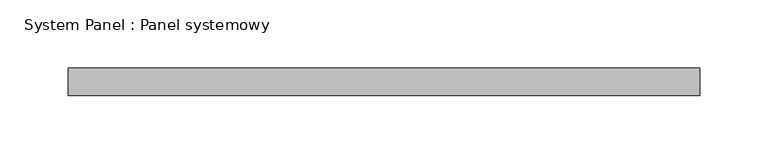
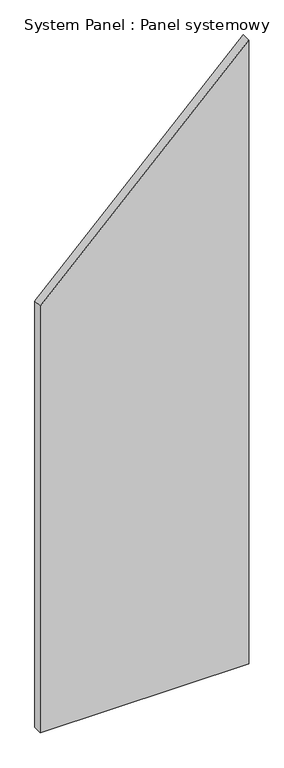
"""IFC4 building model written with IfcOpenShell, lengths in millimetres: plate geometry, System Panel : Panel systemowy."""

import ifcopenshell
import ifcopenshell.guid

model = None  # the IFC model being written
_history = None  # IfcOwnerHistory: only IFC2X3 demands one
_inside = {}  # id of a spatial element -> (the spatial element, [elements in it])
_under = {}  # id of a project, library or spatial element -> (it, [spatial elements below it])
_declared = {}  # id of a project -> (the project, [libraries it declares])
_typed = {}  # id of a type object -> (the type object, [elements of that type])
_made_of = {}  # id of a material, layer set ... -> (it, [elements and type objects made of it])


def new_model(schema):
    """Start an empty IFC model of exactly this schema.

    Asked for "IFC4X3", IfcOpenShell would pick the latest addendum, in which some entities
    have other attributes; the version numbers below select the first issue.
    IFC2X3 requires an IfcOwnerHistory on every rooted entity: one is made here for all.
    """
    global model, _history
    if schema == "IFC4X3":
        model = ifcopenshell.file(schema_version=(4, 3, 0, 0))
    else:
        model = ifcopenshell.file(schema=schema)
    _inside.clear()
    _under.clear()
    _declared.clear()
    _typed.clear()
    _made_of.clear()
    _history = None
    if model.schema == "IFC2X3":
        org = make("IfcOrganization", Name="unknown")
        user = make(
            "IfcPersonAndOrganization",
            ThePerson=make("IfcPerson", FamilyName="unknown"),
            TheOrganization=org,
        )
        app = make(
            "IfcApplication",
            ApplicationDeveloper=org,
            Version="unknown",
            ApplicationFullName="unknown",
            ApplicationIdentifier="unknown",
        )
        _history = make(
            "IfcOwnerHistory",
            OwningUser=user,
            OwningApplication=app,
            ChangeAction="ADDED",
            CreationDate=0,
        )
    return model


def make(cls, **values):
    """One entity of the class cls with the attributes given. An attribute that is None is left unset."""
    return model.create_entity(
        cls, **{name: value for name, value in values.items() if value is not None}
    )


def rooted(cls, **values):
    """An entity with a GlobalId (a new one), such as an element, a storey or a relation."""
    return make(cls, GlobalId=ifcopenshell.guid.new(), OwnerHistory=_history, **values)


def si_unit(unit_type, name, prefix=None):
    """IfcSIUnit, for example si_unit("LENGTHUNIT", "METRE", prefix="MILLI")."""
    return make("IfcSIUnit", UnitType=unit_type, Prefix=prefix, Name=name)


def assignment(units):
    """IfcUnitAssignment: the units of a project."""
    return None if units is None else make("IfcUnitAssignment", Units=units)


def point(xyz):
    """IfcCartesianPoint."""
    return None if xyz is None else make("IfcCartesianPoint", Coordinates=xyz)


def direction(xyz):
    """IfcDirection."""
    return None if xyz is None else make("IfcDirection", DirectionRatios=xyz)


def frame(location, z_axis=None, x_axis=None):
    """IfcAxis2Placement3D, a coordinate frame: its origin and axes. An axis left out is left unset."""
    return make(
        "IfcAxis2Placement3D",
        Location=point(location),
        Axis=direction(z_axis),
        RefDirection=direction(x_axis),
    )


def origin():
    """The frame at (0, 0, 0) with its axes left unset."""
    return frame((0.0, 0.0, 0.0))


def place(relative_to, where):
    """IfcLocalPlacement: puts the frame where relative to a parent placement (None: the world)."""
    return make(
        "IfcLocalPlacement", PlacementRelTo=relative_to, RelativePlacement=where
    )


def context(
    kind, dimensions, precision=None, world=None, true_north=None, identifier=None
):
    """IfcGeometricRepresentationContext, for example the 3D "Model" context."""
    return make(
        "IfcGeometricRepresentationContext",
        ContextIdentifier=identifier,
        ContextType=kind,
        CoordinateSpaceDimension=dimensions,
        Precision=precision,
        WorldCoordinateSystem=world,
        TrueNorth=true_north,
    )


def project(units=None, contexts=None):
    """IfcProject with its units and contexts."""
    return rooted(
        "IfcProject",
        Name="project",
        RepresentationContexts=contexts,
        UnitsInContext=assignment(units),
    )


def spatial(cls, under=None, at=None, **own):
    """A site, building, storey or space (cls), placed at a placement, below another one or the project."""
    s = rooted(cls, ObjectPlacement=at, **own)
    if under is not None:
        _under.setdefault(under.id(), (under, []))[1].append(s)
    return s


def polyline(points):
    """IfcPolyline through the points."""
    return make("IfcPolyline", Points=[point(p) for p in points])


def outline(outer, holes=None, kind="AREA"):
    """IfcArbitraryClosedProfileDef: a profile drawn as a closed curve; with holes, ...WithVoids."""
    if holes is None:
        return make("IfcArbitraryClosedProfileDef", ProfileType=kind, OuterCurve=outer)
    return make(
        "IfcArbitraryProfileDefWithVoids",
        ProfileType=kind,
        OuterCurve=outer,
        InnerCurves=holes,
    )


def extrude(swept, where, along, depth):
    """IfcExtrudedAreaSolid: the profile swept, set in the frame where, extruded along a direction by depth."""
    return make(
        "IfcExtrudedAreaSolid",
        SweptArea=swept,
        Position=where,
        ExtrudedDirection=direction(along),
        Depth=depth,
    )


def shape(context_of_items, identifier, shape_type, items):
    """IfcShapeRepresentation: the items that make up one representation, for example the "Body"."""
    return make(
        "IfcShapeRepresentation",
        ContextOfItems=context_of_items,
        RepresentationIdentifier=identifier,
        RepresentationType=shape_type,
        Items=items,
    )


def source(mapping_origin, context_of_items, identifier, shape_type, items):
    """IfcRepresentationMap: a shape defined once, which mapped items show again and again."""
    return make(
        "IfcRepresentationMap",
        MappingOrigin=mapping_origin,
        MappedRepresentation=shape(context_of_items, identifier, shape_type, items),
    )


def transform(
    local_origin,
    x_axis=None,
    y_axis=None,
    z_axis=None,
    scale=None,
    scale2=None,
    scale3=None,
    uniform=True,
):
    """IfcCartesianTransformationOperator3D, or its non-uniform kind. x_axis, y_axis, z_axis: its Axis1, 2, 3."""
    if uniform:
        return make(
            "IfcCartesianTransformationOperator3D",
            Axis1=direction(x_axis),
            Axis2=direction(y_axis),
            LocalOrigin=point(local_origin),
            Scale=scale,
            Axis3=direction(z_axis),
        )
    return make(
        "IfcCartesianTransformationOperator3DnonUniform",
        Axis1=direction(x_axis),
        Axis2=direction(y_axis),
        LocalOrigin=point(local_origin),
        Scale=scale,
        Axis3=direction(z_axis),
        Scale2=scale2,
        Scale3=scale3,
    )


def mapped(mapping_source, mapping_target):
    """IfcMappedItem: shows the shape of a source again, moved by a transform."""
    return make(
        "IfcMappedItem", MappingSource=mapping_source, MappingTarget=mapping_target
    )


def made_of(thing, what):
    """Note that an element or type object is made of a material, layer set ...; save() writes the relation."""
    if what is not None:
        _made_of.setdefault(what.id(), (what, []))[1].append(thing)
    return thing


def element(
    cls,
    number,
    at=None,
    inside=None,
    cuts=None,
    type_object=None,
    material=None,
    context=None,
    identifier="Body",
    shape_type=None,
    held_by="IfcProductDefinitionShape",
    body=None,
    shapes=None,
    **own,
):
    """One element of the class cls, such as IfcWall. Its Tag is "e" and its number.

    at: its placement. inside: the storey or other place that contains it. cuts: it is an
    opening in that element (IfcRelVoidsElement). A single representation is given by context,
    identifier, shape_type and body (its items); several are given by shapes. held_by: the class
    of the entity that holds the representations. save() writes the other relations.
    """
    e = rooted(cls, Tag="e%d" % number, ObjectPlacement=at, **own)
    if body is not None:
        shapes = [shape(context, identifier, shape_type, body)]
    if shapes is not None:
        e.Representation = make(held_by, Representations=shapes)
    if inside is not None:
        _inside.setdefault(inside.id(), (inside, []))[1].append(e)
    if cuts is not None:
        rooted(
            "IfcRelVoidsElement", RelatingBuildingElement=cuts, RelatedOpeningElement=e
        )
    if type_object is not None:
        _typed.setdefault(type_object.id(), (type_object, []))[1].append(e)
    return made_of(e, material)


def aggregate(whole, parts):
    """IfcRelAggregates: a whole, such as a stair, and the parts it consists of."""
    return rooted("IfcRelAggregates", RelatingObject=whole, RelatedObjects=parts)


def save(model, path):
    """Write the relations noted so far, then the file.

    IfcRelAggregates (storeys below a building ...), IfcRelContainedInSpatialStructure (elements
    in a storey), IfcRelDefinesByType, IfcRelAssociatesMaterial and IfcRelDeclares: one each for
    every whole, place, type object, material and project.
    """
    for whole, parts in _under.values():
        aggregate(whole, parts)
    for where, things in _inside.values():
        rooted(
            "IfcRelContainedInSpatialStructure",
            RelatedElements=things,
            RelatingStructure=where,
        )
    for kind, things in _typed.values():
        rooted("IfcRelDefinesByType", RelatedObjects=things, RelatingType=kind)
    for what, things in _made_of.values():
        rooted("IfcRelAssociatesMaterial", RelatedObjects=things, RelatingMaterial=what)
    for by, libraries in _declared.values():
        rooted("IfcRelDeclares", RelatingContext=by, RelatedDefinitions=libraries)
    model.write(path)


def system_panel_panel_systemowy_e7d91a2d(model_context):
    return source(origin(), model_context, "Body", "SweptSolid", [
        extrude(outline(polyline([(0.0, -231.25), (0.0, 231.25), (1463.2359314, 231.25), (1000.7359313, -231.25), (0.0, -231.25)])), frame((0.0, -10.0, 0.0), z_axis=(0.0, 1.0, 0.0), x_axis=(0.0, 0.0, 1.0)), (0.0, 0.0, 1.0), 20.0),
    ])


if __name__ == "__main__":
    model = new_model("IFC4")
    model_context = context("Model", 3, world=origin())
    ifc_project = project(units=[si_unit("LENGTHUNIT", "METRE", prefix="MILLI")], contexts=[model_context])
    site = spatial("IfcSite", under=ifc_project)
    building = spatial("IfcBuilding", under=site)
    placement = place(None, origin())
    system_panel_panel_systemowy_shape = system_panel_panel_systemowy_e7d91a2d(model_context)
    element("IfcPlate", 1, ObjectType="System Panel : Panel systemowy", at=placement, inside=building, context=model_context, shape_type="MappedRepresentation", body=[
        mapped(system_panel_panel_systemowy_shape, transform((0.0, 0.0, 0.0), x_axis=(1.0, 0.0, 0.0), y_axis=(0.0, 1.0, 0.0), z_axis=(0.0, 0.0, 1.0))),
    ])
    save(model, "model.ifc")
